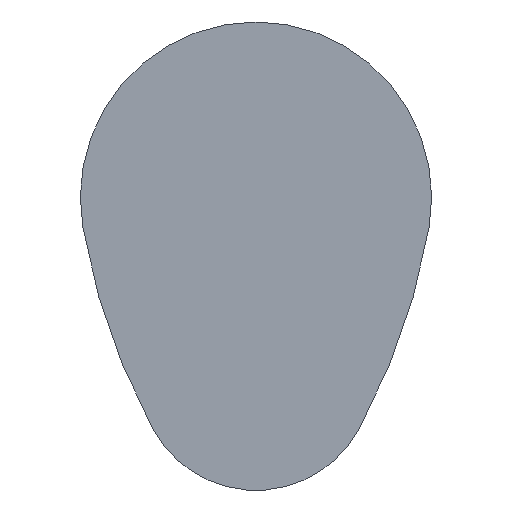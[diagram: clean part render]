
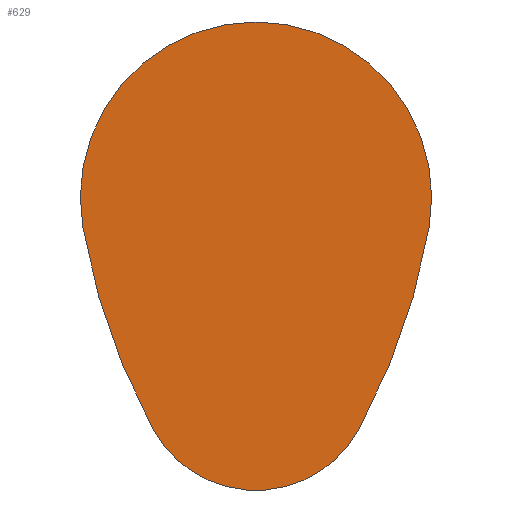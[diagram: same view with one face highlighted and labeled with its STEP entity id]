
A CAD part, front view. The second image highlights one B-rep face of the part: STEP entity #629.
In plain terms, the highlighted planar face has unit normal (0, -1, 0).
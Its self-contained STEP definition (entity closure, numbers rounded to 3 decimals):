
#23=PLANE('',#691);
#61=CIRCLE('',#684,280.);
#62=CIRCLE('',#686,75.);
#63=CIRCLE('',#688,280.);
#64=CIRCLE('',#690,50.);
#113=FACE_OUTER_BOUND('',#155,.T.);
#155=EDGE_LOOP('',(#561,#562,#563,#564));
#281=VERTEX_POINT('',#2153);
#282=VERTEX_POINT('',#2155);
#283=VERTEX_POINT('',#2159);
#284=VERTEX_POINT('',#2163);
#374=EDGE_CURVE('',#282,#281,#61,.T.);
#376=EDGE_CURVE('',#283,#282,#62,.T.);
#378=EDGE_CURVE('',#284,#283,#63,.T.);
#380=EDGE_CURVE('',#281,#284,#64,.T.);
#561=ORIENTED_EDGE('',*,*,#380,.T.);
#562=ORIENTED_EDGE('',*,*,#378,.T.);
#563=ORIENTED_EDGE('',*,*,#376,.T.);
#564=ORIENTED_EDGE('',*,*,#374,.T.);
#629=ADVANCED_FACE('',(#113),#23,.F.);
#684=AXIS2_PLACEMENT_3D('',#2156,#766,#767);
#686=AXIS2_PLACEMENT_3D('',#2160,#771,#772);
#688=AXIS2_PLACEMENT_3D('',#2164,#776,#777);
#690=AXIS2_PLACEMENT_3D('',#2167,#781,#782);
#691=AXIS2_PLACEMENT_3D('',#2168,#783,#784);
#766=DIRECTION('center_axis',(0.,-1.,0.));
#767=DIRECTION('ref_axis',(0.878,0.,0.478));
#771=DIRECTION('center_axis',(0.,-1.,0.));
#772=DIRECTION('ref_axis',(0.985,0.,0.171));
#776=DIRECTION('center_axis',(0.,-1.,0.));
#777=DIRECTION('ref_axis',(-0.985,0.,0.171));
#781=DIRECTION('center_axis',(0.,-1.,0.));
#782=DIRECTION('ref_axis',(-0.878,0.,0.478));
#783=DIRECTION('center_axis',(0.,1.,0.));
#784=DIRECTION('ref_axis',(0.,0.,1.));
#2153=CARTESIAN_POINT('',(-43.911,-9.,-98.913));
#2155=CARTESIAN_POINT('',(-73.899,-9.,-12.805));
#2156=CARTESIAN_POINT('Origin',(201.99,-9.,35.));
#2159=CARTESIAN_POINT('',(73.899,-9.,-12.805));
#2160=CARTESIAN_POINT('Origin',(0.,-9.,0.));
#2163=CARTESIAN_POINT('',(43.911,-9.,-98.913));
#2164=CARTESIAN_POINT('Origin',(-201.99,-9.,35.));
#2167=CARTESIAN_POINT('Origin',(0.,-9.,-75.));
#2168=CARTESIAN_POINT('Origin',(0.,-9.,-21.258));
